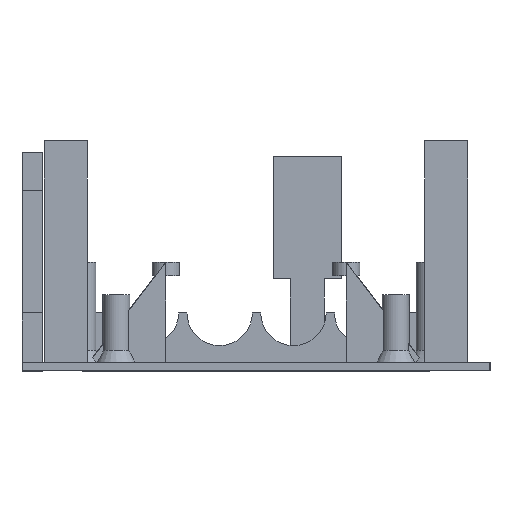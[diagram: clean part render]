
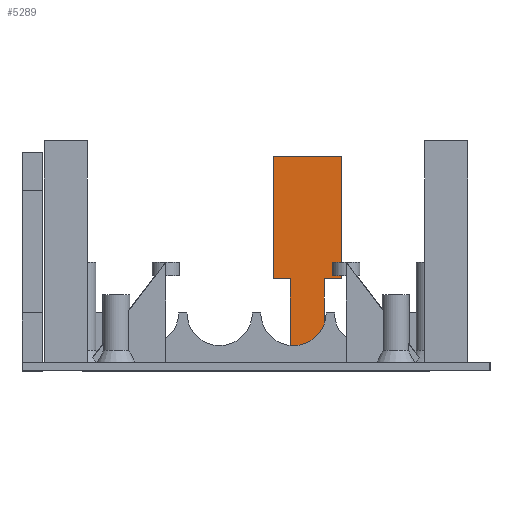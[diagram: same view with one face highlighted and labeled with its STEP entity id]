
A CAD part, left-side view. The second image highlights one B-rep face of the part: STEP entity #5289.
In plain terms, the highlighted planar face has unit normal (-1, 0, 0).
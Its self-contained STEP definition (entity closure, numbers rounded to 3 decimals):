
#126 = PLANE('',#127);
#127 = AXIS2_PLACEMENT_3D('',#128,#129,#130);
#128 = CARTESIAN_POINT('',(1.3,1.3,2.4));
#129 = DIRECTION('',(0.,0.,1.));
#130 = DIRECTION('',(1.,0.,-0.));
#266 = VERTEX_POINT('',#267);
#267 = CARTESIAN_POINT('',(182.7,50.,2.4));
#280 = PLANE('',#281);
#281 = AXIS2_PLACEMENT_3D('',#282,#283,#284);
#282 = CARTESIAN_POINT('',(182.7,50.,-0.1));
#283 = DIRECTION('',(-0.,1.,0.));
#284 = DIRECTION('',(0.,0.,1.));
#291 = EDGE_CURVE('',#266,#292,#294,.T.);
#292 = VERTEX_POINT('',#293);
#293 = CARTESIAN_POINT('',(182.7,60.,2.4));
#294 = SURFACE_CURVE('',#295,(#299,#305),.PCURVE_S1.);
#295 = LINE('',#296,#297);
#296 = CARTESIAN_POINT('',(182.7,23.15,2.4));
#297 = VECTOR('',#298,1.);
#298 = DIRECTION('',(-0.,1.,0.));
#299 = PCURVE('',#126,#300);
#300 = DEFINITIONAL_REPRESENTATION('',(#301),#304);
#301 = B_SPLINE_CURVE_WITH_KNOTS('',1,(#302,#303),.UNSPECIFIED.,.F.,.F.,
  (2,2),(21.85,41.85),.PIECEWISE_BEZIER_KNOTS.);
#302 = CARTESIAN_POINT('',(181.4,43.7));
#303 = CARTESIAN_POINT('',(181.4,63.7));
#304 = ( GEOMETRIC_REPRESENTATION_CONTEXT(2) 
PARAMETRIC_REPRESENTATION_CONTEXT() REPRESENTATION_CONTEXT('2D SPACE',''
  ) );
#305 = PCURVE('',#306,#311);
#306 = PLANE('',#307);
#307 = AXIS2_PLACEMENT_3D('',#308,#309,#310);
#308 = CARTESIAN_POINT('',(182.7,45.,27.));
#309 = DIRECTION('',(1.,0.,-0.));
#310 = DIRECTION('',(0.,0.,1.));
#311 = DEFINITIONAL_REPRESENTATION('',(#312),#315);
#312 = B_SPLINE_CURVE_WITH_KNOTS('',1,(#313,#314),.UNSPECIFIED.,.F.,.F.,
  (2,2),(21.85,41.85),.PIECEWISE_BEZIER_KNOTS.);
#313 = CARTESIAN_POINT('',(-24.6,0.));
#314 = CARTESIAN_POINT('',(-24.6,-20.));
#315 = ( GEOMETRIC_REPRESENTATION_CONTEXT(2) 
PARAMETRIC_REPRESENTATION_CONTEXT() REPRESENTATION_CONTEXT('2D SPACE',''
  ) );
#332 = PLANE('',#333);
#333 = AXIS2_PLACEMENT_3D('',#334,#335,#336);
#334 = CARTESIAN_POINT('',(182.7,60.,-0.1));
#335 = DIRECTION('',(-0.,1.,0.));
#336 = DIRECTION('',(0.,0.,1.));
#4459 = PLANE('',#4460);
#4460 = AXIS2_PLACEMENT_3D('',#4461,#4462,#4463);
#4461 = CARTESIAN_POINT('',(182.7,45.,27.));
#4462 = DIRECTION('',(0.,0.,1.));
#4463 = DIRECTION('',(1.,0.,-0.));
#4487 = PLANE('',#4488);
#4488 = AXIS2_PLACEMENT_3D('',#4489,#4490,#4491);
#4489 = CARTESIAN_POINT('',(182.7,65.,27.));
#4490 = DIRECTION('',(-0.,1.,0.));
#4491 = DIRECTION('',(0.,0.,1.));
#4515 = PLANE('',#4516);
#4516 = AXIS2_PLACEMENT_3D('',#4517,#4518,#4519);
#4517 = CARTESIAN_POINT('',(182.7,45.,63.));
#4518 = DIRECTION('',(0.,0.,1.));
#4519 = DIRECTION('',(1.,0.,-0.));
#4543 = PLANE('',#4544);
#4544 = AXIS2_PLACEMENT_3D('',#4545,#4546,#4547);
#4545 = CARTESIAN_POINT('',(182.7,45.,27.));
#4546 = DIRECTION('',(-0.,1.,0.));
#4547 = DIRECTION('',(0.,0.,1.));
#4571 = PLANE('',#4572);
#4572 = AXIS2_PLACEMENT_3D('',#4573,#4574,#4575);
#4573 = CARTESIAN_POINT('',(182.7,45.,27.));
#4574 = DIRECTION('',(0.,0.,1.));
#4575 = DIRECTION('',(1.,0.,-0.));
#5248 = EDGE_CURVE('',#292,#5249,#5251,.T.);
#5249 = VERTEX_POINT('',#5250);
#5250 = CARTESIAN_POINT('',(182.7,60.,27.));
#5251 = SURFACE_CURVE('',#5252,(#5256,#5263),.PCURVE_S1.);
#5252 = LINE('',#5253,#5254);
#5253 = CARTESIAN_POINT('',(182.7,60.,-0.1));
#5254 = VECTOR('',#5255,1.);
#5255 = DIRECTION('',(0.,0.,1.));
#5256 = PCURVE('',#332,#5257);
#5257 = DEFINITIONAL_REPRESENTATION('',(#5258),#5262);
#5258 = LINE('',#5259,#5260);
#5259 = CARTESIAN_POINT('',(0.,0.));
#5260 = VECTOR('',#5261,1.);
#5261 = DIRECTION('',(1.,0.));
#5262 = ( GEOMETRIC_REPRESENTATION_CONTEXT(2) 
PARAMETRIC_REPRESENTATION_CONTEXT() REPRESENTATION_CONTEXT('2D SPACE',''
  ) );
#5263 = PCURVE('',#306,#5264);
#5264 = DEFINITIONAL_REPRESENTATION('',(#5265),#5269);
#5265 = LINE('',#5266,#5267);
#5266 = CARTESIAN_POINT('',(-27.1,-15.));
#5267 = VECTOR('',#5268,1.);
#5268 = DIRECTION('',(1.,0.));
#5269 = ( GEOMETRIC_REPRESENTATION_CONTEXT(2) 
PARAMETRIC_REPRESENTATION_CONTEXT() REPRESENTATION_CONTEXT('2D SPACE',''
  ) );
#5289 = ADVANCED_FACE('',(#5290),#306,.F.);
#5290 = FACE_BOUND('',#5291,.F.);
#5291 = EDGE_LOOP('',(#5292,#5317,#5340,#5363,#5386,#5407,#5408,#5409));
#5292 = ORIENTED_EDGE('',*,*,#5293,.T.);
#5293 = EDGE_CURVE('',#5294,#5296,#5298,.T.);
#5294 = VERTEX_POINT('',#5295);
#5295 = CARTESIAN_POINT('',(182.7,65.,27.));
#5296 = VERTEX_POINT('',#5297);
#5297 = CARTESIAN_POINT('',(182.7,65.,63.));
#5298 = SURFACE_CURVE('',#5299,(#5303,#5310),.PCURVE_S1.);
#5299 = LINE('',#5300,#5301);
#5300 = CARTESIAN_POINT('',(182.7,65.,27.));
#5301 = VECTOR('',#5302,1.);
#5302 = DIRECTION('',(0.,0.,1.));
#5303 = PCURVE('',#306,#5304);
#5304 = DEFINITIONAL_REPRESENTATION('',(#5305),#5309);
#5305 = LINE('',#5306,#5307);
#5306 = CARTESIAN_POINT('',(0.,-20.));
#5307 = VECTOR('',#5308,1.);
#5308 = DIRECTION('',(1.,0.));
#5309 = ( GEOMETRIC_REPRESENTATION_CONTEXT(2) 
PARAMETRIC_REPRESENTATION_CONTEXT() REPRESENTATION_CONTEXT('2D SPACE',''
  ) );
#5310 = PCURVE('',#4487,#5311);
#5311 = DEFINITIONAL_REPRESENTATION('',(#5312),#5316);
#5312 = LINE('',#5313,#5314);
#5313 = CARTESIAN_POINT('',(0.,0.));
#5314 = VECTOR('',#5315,1.);
#5315 = DIRECTION('',(1.,0.));
#5316 = ( GEOMETRIC_REPRESENTATION_CONTEXT(2) 
PARAMETRIC_REPRESENTATION_CONTEXT() REPRESENTATION_CONTEXT('2D SPACE',''
  ) );
#5317 = ORIENTED_EDGE('',*,*,#5318,.F.);
#5318 = EDGE_CURVE('',#5319,#5296,#5321,.T.);
#5319 = VERTEX_POINT('',#5320);
#5320 = CARTESIAN_POINT('',(182.7,45.,63.));
#5321 = SURFACE_CURVE('',#5322,(#5326,#5333),.PCURVE_S1.);
#5322 = LINE('',#5323,#5324);
#5323 = CARTESIAN_POINT('',(182.7,45.,63.));
#5324 = VECTOR('',#5325,1.);
#5325 = DIRECTION('',(-0.,1.,0.));
#5326 = PCURVE('',#306,#5327);
#5327 = DEFINITIONAL_REPRESENTATION('',(#5328),#5332);
#5328 = LINE('',#5329,#5330);
#5329 = CARTESIAN_POINT('',(36.,0.));
#5330 = VECTOR('',#5331,1.);
#5331 = DIRECTION('',(0.,-1.));
#5332 = ( GEOMETRIC_REPRESENTATION_CONTEXT(2) 
PARAMETRIC_REPRESENTATION_CONTEXT() REPRESENTATION_CONTEXT('2D SPACE',''
  ) );
#5333 = PCURVE('',#4515,#5334);
#5334 = DEFINITIONAL_REPRESENTATION('',(#5335),#5339);
#5335 = LINE('',#5336,#5337);
#5336 = CARTESIAN_POINT('',(0.,0.));
#5337 = VECTOR('',#5338,1.);
#5338 = DIRECTION('',(0.,1.));
#5339 = ( GEOMETRIC_REPRESENTATION_CONTEXT(2) 
PARAMETRIC_REPRESENTATION_CONTEXT() REPRESENTATION_CONTEXT('2D SPACE',''
  ) );
#5340 = ORIENTED_EDGE('',*,*,#5341,.F.);
#5341 = EDGE_CURVE('',#5342,#5319,#5344,.T.);
#5342 = VERTEX_POINT('',#5343);
#5343 = CARTESIAN_POINT('',(182.7,45.,27.));
#5344 = SURFACE_CURVE('',#5345,(#5349,#5356),.PCURVE_S1.);
#5345 = LINE('',#5346,#5347);
#5346 = CARTESIAN_POINT('',(182.7,45.,27.));
#5347 = VECTOR('',#5348,1.);
#5348 = DIRECTION('',(0.,0.,1.));
#5349 = PCURVE('',#306,#5350);
#5350 = DEFINITIONAL_REPRESENTATION('',(#5351),#5355);
#5351 = LINE('',#5352,#5353);
#5352 = CARTESIAN_POINT('',(0.,0.));
#5353 = VECTOR('',#5354,1.);
#5354 = DIRECTION('',(1.,0.));
#5355 = ( GEOMETRIC_REPRESENTATION_CONTEXT(2) 
PARAMETRIC_REPRESENTATION_CONTEXT() REPRESENTATION_CONTEXT('2D SPACE',''
  ) );
#5356 = PCURVE('',#4543,#5357);
#5357 = DEFINITIONAL_REPRESENTATION('',(#5358),#5362);
#5358 = LINE('',#5359,#5360);
#5359 = CARTESIAN_POINT('',(0.,0.));
#5360 = VECTOR('',#5361,1.);
#5361 = DIRECTION('',(1.,0.));
#5362 = ( GEOMETRIC_REPRESENTATION_CONTEXT(2) 
PARAMETRIC_REPRESENTATION_CONTEXT() REPRESENTATION_CONTEXT('2D SPACE',''
  ) );
#5363 = ORIENTED_EDGE('',*,*,#5364,.T.);
#5364 = EDGE_CURVE('',#5342,#5365,#5367,.T.);
#5365 = VERTEX_POINT('',#5366);
#5366 = CARTESIAN_POINT('',(182.7,50.,27.));
#5367 = SURFACE_CURVE('',#5368,(#5372,#5379),.PCURVE_S1.);
#5368 = LINE('',#5369,#5370);
#5369 = CARTESIAN_POINT('',(182.7,45.,27.));
#5370 = VECTOR('',#5371,1.);
#5371 = DIRECTION('',(-0.,1.,0.));
#5372 = PCURVE('',#306,#5373);
#5373 = DEFINITIONAL_REPRESENTATION('',(#5374),#5378);
#5374 = LINE('',#5375,#5376);
#5375 = CARTESIAN_POINT('',(0.,0.));
#5376 = VECTOR('',#5377,1.);
#5377 = DIRECTION('',(0.,-1.));
#5378 = ( GEOMETRIC_REPRESENTATION_CONTEXT(2) 
PARAMETRIC_REPRESENTATION_CONTEXT() REPRESENTATION_CONTEXT('2D SPACE',''
  ) );
#5379 = PCURVE('',#4571,#5380);
#5380 = DEFINITIONAL_REPRESENTATION('',(#5381),#5385);
#5381 = LINE('',#5382,#5383);
#5382 = CARTESIAN_POINT('',(0.,0.));
#5383 = VECTOR('',#5384,1.);
#5384 = DIRECTION('',(0.,1.));
#5385 = ( GEOMETRIC_REPRESENTATION_CONTEXT(2) 
PARAMETRIC_REPRESENTATION_CONTEXT() REPRESENTATION_CONTEXT('2D SPACE',''
  ) );
#5386 = ORIENTED_EDGE('',*,*,#5387,.F.);
#5387 = EDGE_CURVE('',#266,#5365,#5388,.T.);
#5388 = SURFACE_CURVE('',#5389,(#5393,#5400),.PCURVE_S1.);
#5389 = LINE('',#5390,#5391);
#5390 = CARTESIAN_POINT('',(182.7,50.,-0.1));
#5391 = VECTOR('',#5392,1.);
#5392 = DIRECTION('',(0.,0.,1.));
#5393 = PCURVE('',#306,#5394);
#5394 = DEFINITIONAL_REPRESENTATION('',(#5395),#5399);
#5395 = LINE('',#5396,#5397);
#5396 = CARTESIAN_POINT('',(-27.1,-5.));
#5397 = VECTOR('',#5398,1.);
#5398 = DIRECTION('',(1.,0.));
#5399 = ( GEOMETRIC_REPRESENTATION_CONTEXT(2) 
PARAMETRIC_REPRESENTATION_CONTEXT() REPRESENTATION_CONTEXT('2D SPACE',''
  ) );
#5400 = PCURVE('',#280,#5401);
#5401 = DEFINITIONAL_REPRESENTATION('',(#5402),#5406);
#5402 = LINE('',#5403,#5404);
#5403 = CARTESIAN_POINT('',(0.,0.));
#5404 = VECTOR('',#5405,1.);
#5405 = DIRECTION('',(1.,0.));
#5406 = ( GEOMETRIC_REPRESENTATION_CONTEXT(2) 
PARAMETRIC_REPRESENTATION_CONTEXT() REPRESENTATION_CONTEXT('2D SPACE',''
  ) );
#5407 = ORIENTED_EDGE('',*,*,#291,.T.);
#5408 = ORIENTED_EDGE('',*,*,#5248,.T.);
#5409 = ORIENTED_EDGE('',*,*,#5410,.T.);
#5410 = EDGE_CURVE('',#5249,#5294,#5411,.T.);
#5411 = SURFACE_CURVE('',#5412,(#5416,#5423),.PCURVE_S1.);
#5412 = LINE('',#5413,#5414);
#5413 = CARTESIAN_POINT('',(182.7,45.,27.));
#5414 = VECTOR('',#5415,1.);
#5415 = DIRECTION('',(-0.,1.,0.));
#5416 = PCURVE('',#306,#5417);
#5417 = DEFINITIONAL_REPRESENTATION('',(#5418),#5422);
#5418 = LINE('',#5419,#5420);
#5419 = CARTESIAN_POINT('',(0.,0.));
#5420 = VECTOR('',#5421,1.);
#5421 = DIRECTION('',(0.,-1.));
#5422 = ( GEOMETRIC_REPRESENTATION_CONTEXT(2) 
PARAMETRIC_REPRESENTATION_CONTEXT() REPRESENTATION_CONTEXT('2D SPACE',''
  ) );
#5423 = PCURVE('',#4459,#5424);
#5424 = DEFINITIONAL_REPRESENTATION('',(#5425),#5429);
#5425 = LINE('',#5426,#5427);
#5426 = CARTESIAN_POINT('',(0.,0.));
#5427 = VECTOR('',#5428,1.);
#5428 = DIRECTION('',(0.,1.));
#5429 = ( GEOMETRIC_REPRESENTATION_CONTEXT(2) 
PARAMETRIC_REPRESENTATION_CONTEXT() REPRESENTATION_CONTEXT('2D SPACE',''
  ) );
